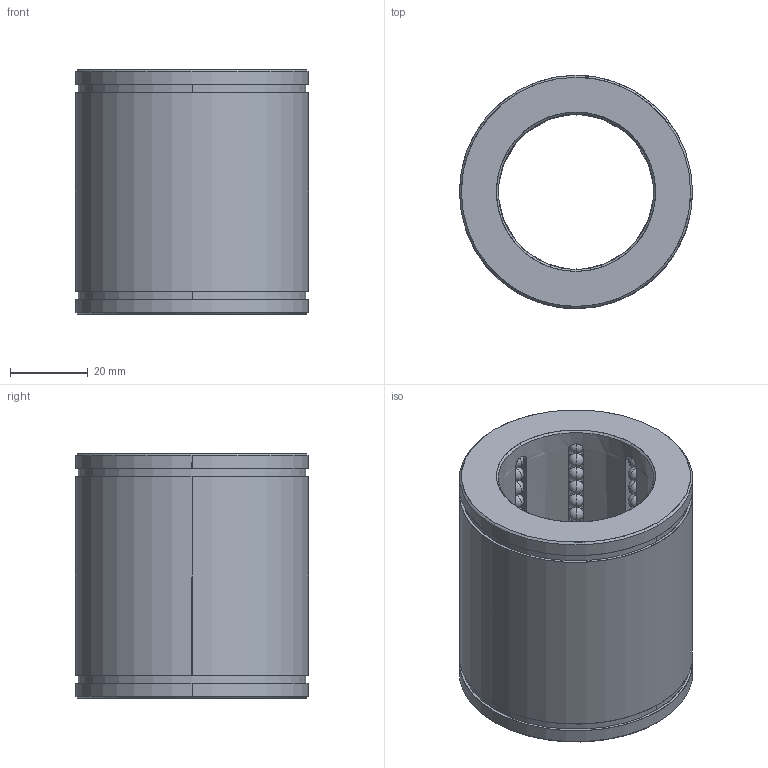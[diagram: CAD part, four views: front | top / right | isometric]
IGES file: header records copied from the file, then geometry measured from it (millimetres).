
Start section: START RECORD GO HERE.
Global section: file name: B8034063.igs; native system: DASSAULT SYSTEMES CATIA V5 R20 - www.3ds.com; preprocessor: CATIA Version 5 Release 20 ; author: Utente; organization: NB04-ASUS; date: 20200419.161226; units: millimetre
Bounding box: 60 x 60 x 63 mm (x, y, z)
Surface area: 32093 mm2 (no closed solid volume)
Topology: 0 solids, 0 shells, 490 faces, 2020 edges, 1188 vertices
Faces by surface type: revolution 460, plane 30
